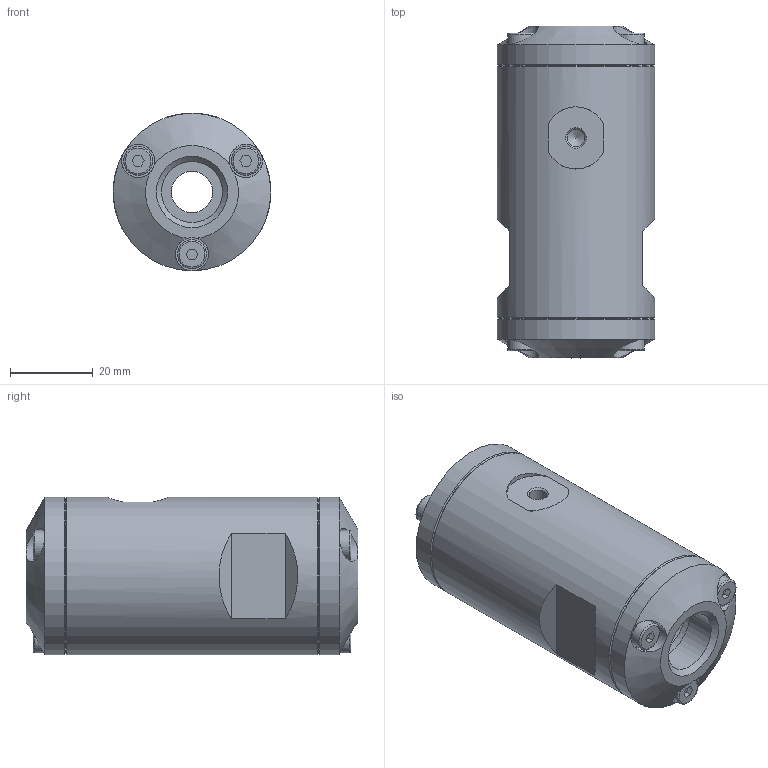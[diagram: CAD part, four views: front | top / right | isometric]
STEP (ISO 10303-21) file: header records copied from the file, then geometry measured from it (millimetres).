
FILE_DESCRIPTION(/* description */ (''),/* implementation_level */ '2;1');
FILE_NAME(/* name */ 'Serie80_QV10_assembly_VEREINFACHT.stp',/* time_stamp */ '2013-10-21T16:48:13+02:00',/* author */ (''),/* organization */ (''),/* preprocessor_version */ 'ST-DEVELOPER v11',/* originating_system */ 'SIEMENS PLM Software NX 7.5',/* authorisation */ '');
FILE_SCHEMA (('AUTOMOTIVE_DESIGN { 1 0 10303 214 1 1 1 1 }'));
Length unit declared in the file: millimetre
Products named in the file (1): memdFD780wdr
Bounding box: 38 x 80 x 38 mm (x, y, z)
Volume: 76000.9 mm3; surface area: 25697.3 mm2
Topology: 21 solids, 21 shells, 248 faces, 497 edges, 317 vertices
Faces by surface type: plane 115, cylinder 77, cone 30, torus 26
Full cylindrical faces by diameter (mm): 3.24 x12, 3.3 x6, 4 x18, 4.2 x7, 4.4 x6, 7 x6, 8 x6, 10 x3, 14.684 x2, 17.9 x2, 35 x2, 35.2 x2, 38 x3
Entity records: 5771 total; most frequent: DIRECTION 1022, CARTESIAN_POINT 990, ORIENTED_EDGE 666, AXIS2_PLACEMENT_3D 452, EDGE_LOOP 424, FACE_BOUND 351, EDGE_CURVE 333, VERTEX_POINT 280
